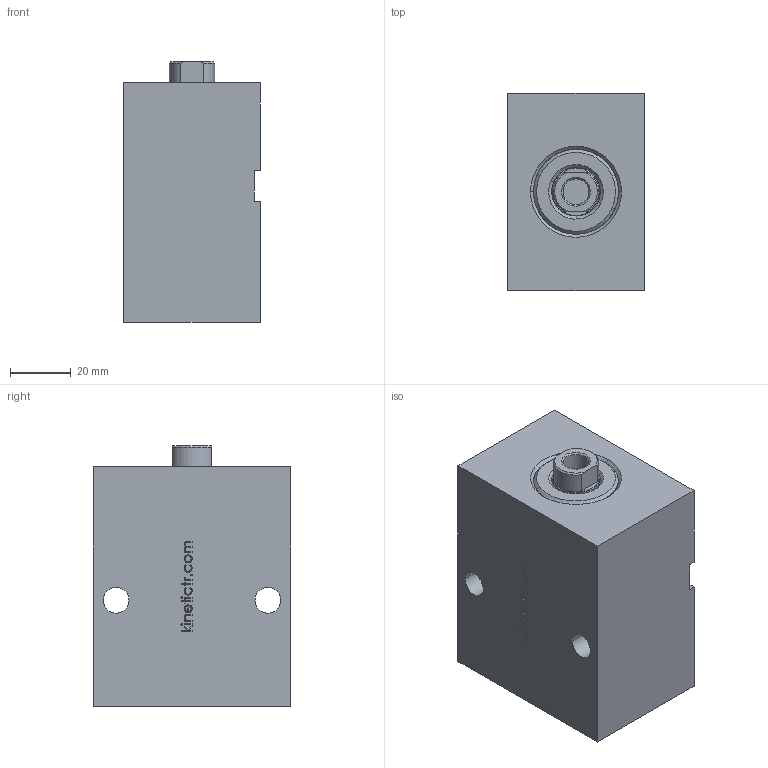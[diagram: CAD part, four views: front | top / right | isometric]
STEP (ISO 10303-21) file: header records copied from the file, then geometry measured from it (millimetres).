
FILE_DESCRIPTION (( 'STEP AP214' ), '1' );
FILE_NAME ('KBZ_11_25_16_35.STEP', '2019-09-11T19:13:39', ( '' ), ( '' ), 'SwSTEP 2.0', 'SolidWorks 2018', '' );
FILE_SCHEMA (( 'AUTOMOTIVE_DESIGN' ));
Length unit declared in the file: millimetre
Products named in the file (4): GOVDE; KAPAK; KBZ_11_25_16_35; MIL
Assembly tree (3 placements, depth 2):
  KBZ_11_25_16_35
    GOVDE
    KAPAK
    MIL
Bounding box: 45 x 65 x 86 mm (x, y, z)
Volume: 225569.3 mm3; surface area: 30344.3 mm2
Topology: 3 solids, 3 shells, 232 faces, 586 edges, 386 vertices
Faces by surface type: plane 117, bspline 69, cylinder 29, cone 17
Entity records: 10254 total; most frequent: CARTESIAN_POINT 4915, ORIENTED_EDGE 1172, DIRECTION 858, EDGE_CURVE 586, VERTEX_POINT 386, LINE 368, VECTOR 368, EDGE_LOOP 264
